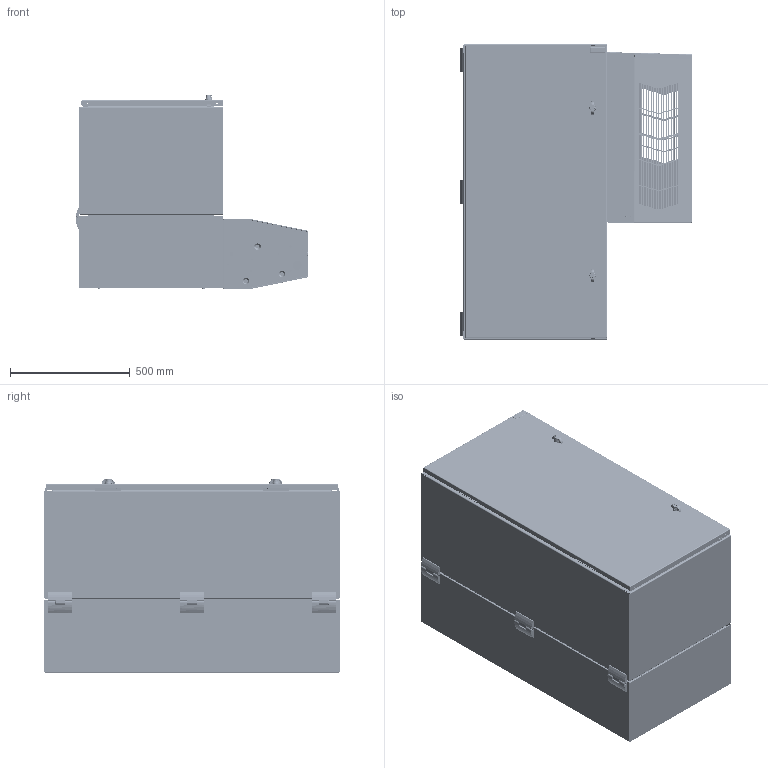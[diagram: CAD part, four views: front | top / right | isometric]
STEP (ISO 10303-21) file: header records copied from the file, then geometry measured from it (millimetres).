
FILE_DESCRIPTION (( 'STEP AP203' ), '1' );
FILE_NAME ('pths482430g4a.STEP', '2018-12-19T16:59:36', ( '' ), ( '' ), 'SwSTEP 2.0', 'SolidWorks 2016', '' );
FILE_SCHEMA (( 'CONFIG_CONTROL_DESIGN' ));
Length unit declared in the file: millimetre
Products named in the file (62): 89072933; 89060191; 89071543_89071543; 60127314; 89090300; 99407418; 89078336; 10-1014-202_99414124; 89071699_Installed Config; 87798865; 89113746; 60127199_60127199; 87928600; 89066272; 89072934; 87931527_87931527; 89060212; 99411986; 56906712_56906712; 64138001; 99401225; 89068636; 87931368_SLEEVE; 89070551; 89070549; 89090302; 89076596_89060267; 89079061; 89068637; 60100041_60100041; 89060606_89060606; 89056327; 89066977_AS REAMED; 87790199; 89076598_89060269; 10-1097-03_AS USED; 89169649; 89072125_87931339; 89070550; 89066979_WITH STAKE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
Assembly tree (155 placements, depth 5):
  pths482430g4a
    89169647
      89169649
        89169651
        89169051  x2
        89060191  x2
        89071699_Installed Config  x6
        60100041_60100041
          87931527_87931527
          87931368_SLEEVE
      89074727
    89079061
      89078337
      89078336
      89066272  x2
      60100041_60100041  x2
        87931527_87931527
        87931368_SLEEVE
      99401225  x28
    89076596_89060267
      89076597_Compressed wdw gasket
        89076598_89060269
        60127101_60127101  x2
        89074727
        60100041_60100041
          87931527_87931527
          87931368_SLEEVE
      89071927_FOR 16GA  x2
      99407418  x2
      87928600
      64138001  x2
    87790199  x2
    89090302  x2
      89090300
        89090299_87790201
        60127135_installed position SS  x2
        87543196_Installed  x2
      60127199_60127199
      56906712_56906712
    89066978  x3
      89066977_AS REAMED
      87540581
    89066980  x3
      89066979_WITH STAKE
      89091800
      87540581
    60127314  x4
    89113746  x3
    99411986
    89070550  x3
      89070549
      89056327
    89060213  x3
    89060214  x3
    89071543_89071543  x3
    87798865
    89060212  x3
    89070551  x6
    89060606_89060606  x2
    89072125_87931339  x2
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Bounding box: 971.63 x 1233 x 809.97 mm (x, y, z)
Volume: 10845324.9 mm3; surface area: 12243369.7 mm2
Topology: 162 solids, 182 shells, 10902 faces, 27381 edges, 16962 vertices
Faces by surface type: plane 5086, cylinder 3159, bspline 1234, cone 831, torus 444, sphere 148
Entity records: 209657 total; most frequent: CARTESIAN_POINT 82927, ORIENTED_EDGE 25242, DIRECTION 22947, EDGE_CURVE 12621, VERTEX_POINT 7915, AXIS2_PLACEMENT_3D 7768, LINE 7411, VECTOR 7411
